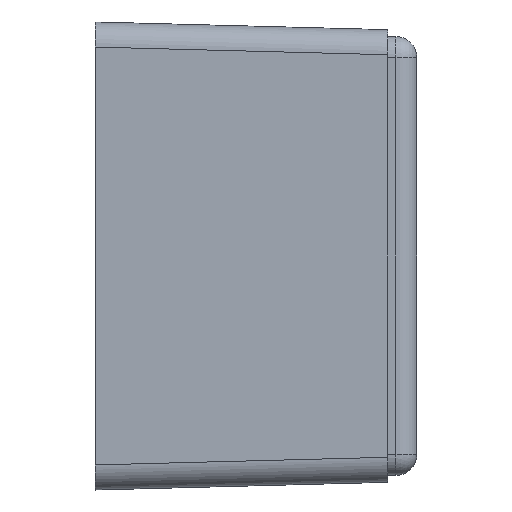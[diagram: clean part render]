
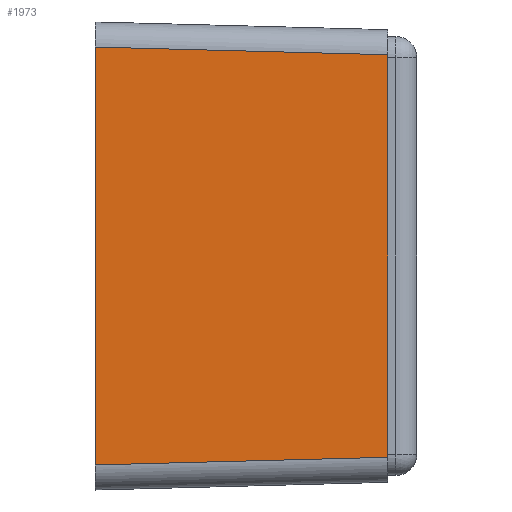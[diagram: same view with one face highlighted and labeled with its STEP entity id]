
A CAD part, left-side view. The second image highlights one B-rep face of the part: STEP entity #1973.
In plain terms, the highlighted planar face has unit normal (-1, -0.026, 0).
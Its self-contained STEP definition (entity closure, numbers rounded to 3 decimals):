
#44 = CARTESIAN_POINT ( 'NONE',  ( -59.333, -35., 24.085 ) ) ;
#87 = EDGE_CURVE ( 'NONE', #791, #161, #1777, .T. ) ;
#139 = AXIS2_PLACEMENT_3D ( 'NONE', #716, #2241, #2227 ) ;
#161 = VERTEX_POINT ( 'NONE', #1266 ) ;
#297 = CARTESIAN_POINT ( 'NONE',  ( -59.333, -35., -24.085 ) ) ;
#308 = VERTEX_POINT ( 'NONE', #297 ) ;
#435 = DIRECTION ( 'NONE',  ( 0.026, -0.999, 0.026 ) ) ;
#534 = VECTOR ( 'NONE', #435, 1000. ) ;
#549 = ORIENTED_EDGE ( 'NONE', *, *, #87, .T. ) ;
#716 = CARTESIAN_POINT ( 'NONE',  ( -60.25, 0., -28. ) ) ;
#791 = VERTEX_POINT ( 'NONE', #44 ) ;
#794 = ORIENTED_EDGE ( 'NONE', *, *, #2002, .T. ) ;
#966 = EDGE_CURVE ( 'NONE', #308, #791, #1456, .T. ) ;
#1024 = ORIENTED_EDGE ( 'NONE', *, *, #1680, .F. ) ;
#1026 = LINE ( 'NONE', #1333, #534 ) ;
#1162 = EDGE_LOOP ( 'NONE', ( #794, #1711, #549, #1024 ) ) ;
#1219 = PLANE ( 'NONE',  #139 ) ;
#1266 = CARTESIAN_POINT ( 'NONE',  ( -60.25, 0., 25.001 ) ) ;
#1333 = CARTESIAN_POINT ( 'NONE',  ( -60.252, 0.078, -25.003 ) ) ;
#1375 = CARTESIAN_POINT ( 'NONE',  ( -59.333, -35., -28. ) ) ;
#1379 = CARTESIAN_POINT ( 'NONE',  ( -60.25, 0., -28. ) ) ;
#1456 = LINE ( 'NONE', #1375, #1885 ) ;
#1571 = DIRECTION ( 'NONE',  ( 0., 0., 1. ) ) ;
#1588 = CARTESIAN_POINT ( 'NONE',  ( -60.214, -1.386, 24.965 ) ) ;
#1680 = EDGE_CURVE ( 'NONE', #1796, #161, #1747, .T. ) ;
#1711 = ORIENTED_EDGE ( 'NONE', *, *, #966, .T. ) ;
#1747 = LINE ( 'NONE', #1379, #2138 ) ;
#1753 = DIRECTION ( 'NONE',  ( -0.026, 0.999, 0.026 ) ) ;
#1777 = LINE ( 'NONE', #1588, #2218 ) ;
#1796 = VERTEX_POINT ( 'NONE', #1804 ) ;
#1804 = CARTESIAN_POINT ( 'NONE',  ( -60.25, 0., -25.001 ) ) ;
#1885 = VECTOR ( 'NONE', #1571, 1000. ) ;
#1955 = DIRECTION ( 'NONE',  ( 0., 0., 1. ) ) ;
#1973 = ADVANCED_FACE ( 'NONE', ( #2054 ), #1219, .T. ) ;
#2002 = EDGE_CURVE ( 'NONE', #1796, #308, #1026, .T. ) ;
#2054 = FACE_OUTER_BOUND ( 'NONE', #1162, .T. ) ;
#2138 = VECTOR ( 'NONE', #1955, 1000. ) ;
#2218 = VECTOR ( 'NONE', #1753, 1000. ) ;
#2227 = DIRECTION ( 'NONE',  ( 0.026, -1., 0. ) ) ;
#2241 = DIRECTION ( 'NONE',  ( -1., -0.026, 0. ) ) ;
